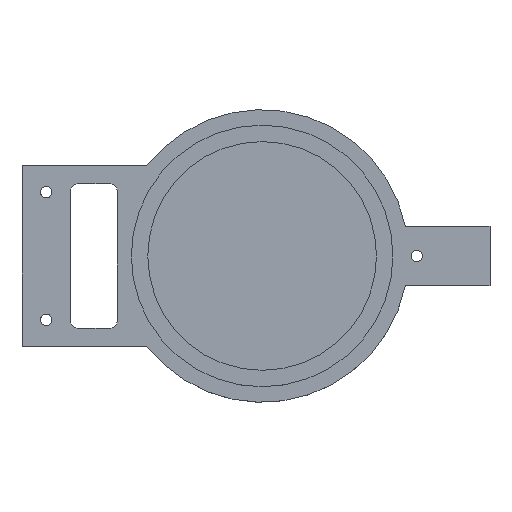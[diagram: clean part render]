
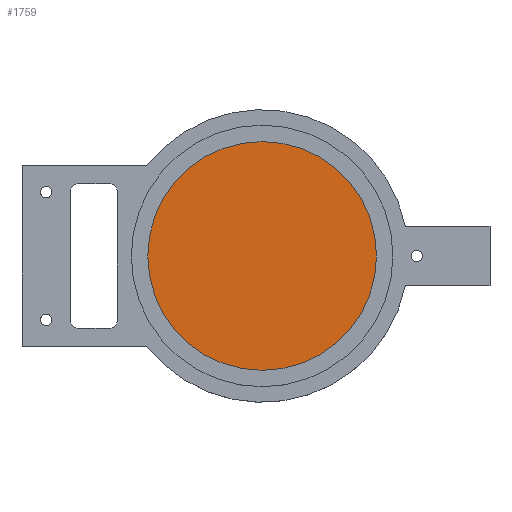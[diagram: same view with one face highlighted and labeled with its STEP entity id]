
A CAD part, top view. The second image highlights one B-rep face of the part: STEP entity #1759.
In plain terms, the highlighted planar face has unit normal (0, 0, 1).
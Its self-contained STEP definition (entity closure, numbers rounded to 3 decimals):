
#1693 = CYLINDRICAL_SURFACE('',#1694,17.);
#1694 = AXIS2_PLACEMENT_3D('',#1695,#1696,#1697);
#1695 = CARTESIAN_POINT('',(0.,0.,-2.11));
#1696 = DIRECTION('',(0.,0.,1.));
#1697 = DIRECTION('',(1.,0.,0.));
#1710 = VERTEX_POINT('',#1711);
#1711 = CARTESIAN_POINT('',(17.,0.,-2.11));
#1732 = EDGE_CURVE('',#1710,#1710,#1733,.T.);
#1733 = SURFACE_CURVE('',#1734,(#1739,#1746),.PCURVE_S1.);
#1734 = CIRCLE('',#1735,17.);
#1735 = AXIS2_PLACEMENT_3D('',#1736,#1737,#1738);
#1736 = CARTESIAN_POINT('',(0.,0.,-2.11));
#1737 = DIRECTION('',(0.,0.,1.));
#1738 = DIRECTION('',(1.,0.,0.));
#1739 = PCURVE('',#1693,#1740);
#1740 = DEFINITIONAL_REPRESENTATION('',(#1741),#1745);
#1741 = LINE('',#1742,#1743);
#1742 = CARTESIAN_POINT('',(0.,0.));
#1743 = VECTOR('',#1744,1.);
#1744 = DIRECTION('',(1.,0.));
#1745 = ( GEOMETRIC_REPRESENTATION_CONTEXT(2) 
PARAMETRIC_REPRESENTATION_CONTEXT() REPRESENTATION_CONTEXT('2D SPACE',''
  ) );
#1746 = PCURVE('',#1747,#1752);
#1747 = PLANE('',#1748);
#1748 = AXIS2_PLACEMENT_3D('',#1749,#1750,#1751);
#1749 = CARTESIAN_POINT('',(0.,0.,-2.11));
#1750 = DIRECTION('',(0.,0.,1.));
#1751 = DIRECTION('',(1.,0.,0.));
#1752 = DEFINITIONAL_REPRESENTATION('',(#1753),#1757);
#1753 = CIRCLE('',#1754,17.);
#1754 = AXIS2_PLACEMENT_2D('',#1755,#1756);
#1755 = CARTESIAN_POINT('',(0.,0.));
#1756 = DIRECTION('',(1.,0.));
#1757 = ( GEOMETRIC_REPRESENTATION_CONTEXT(2) 
PARAMETRIC_REPRESENTATION_CONTEXT() REPRESENTATION_CONTEXT('2D SPACE',''
  ) );
#1759 = ADVANCED_FACE('',(#1760),#1747,.T.);
#1760 = FACE_BOUND('',#1761,.F.);
#1761 = EDGE_LOOP('',(#1762));
#1762 = ORIENTED_EDGE('',*,*,#1732,.F.);
